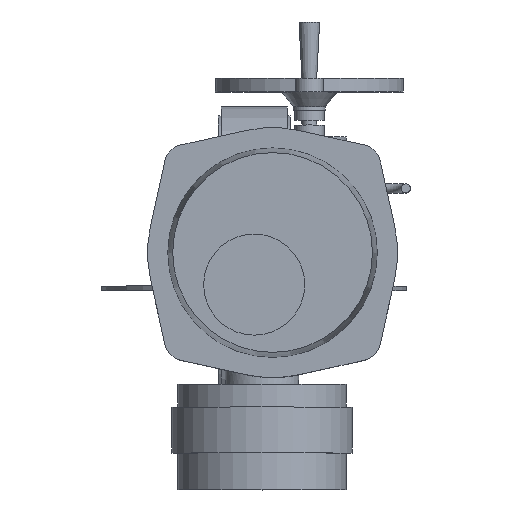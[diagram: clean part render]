
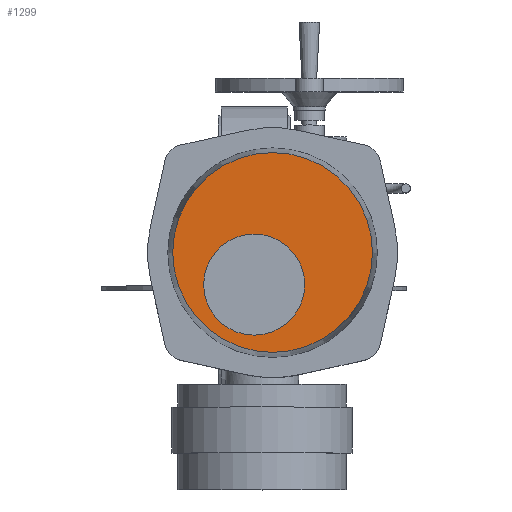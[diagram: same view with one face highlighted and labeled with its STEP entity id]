
A CAD part, top view. The second image highlights one B-rep face of the part: STEP entity #1299.
In plain terms, the highlighted planar face has unit normal (0, 0, 1).
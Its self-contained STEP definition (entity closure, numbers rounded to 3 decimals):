
#1299=ADVANCED_FACE('',(#2807,#2809),#2811,.T.);
#2807=FACE_BOUND('',#2808,.T.);
#2808=EDGE_LOOP('',(#3749));
#2809=FACE_BOUND('',#2810,.T.);
#2810=EDGE_LOOP('',(#3750));
#2811=PLANE('',#2812);
#2812=AXIS2_PLACEMENT_3D('',#2813,#2814,#2815);
#2813=CARTESIAN_POINT('',(20.,38.,659.));
#2814=DIRECTION('',(0.,0.,1.));
#2815=DIRECTION('',(-1.,0.,0.));
#3749=ORIENTED_EDGE('',*,*,#4199,.T.);
#3750=ORIENTED_EDGE('',*,*,#4210,.F.);
#4199=EDGE_CURVE('',#4789,#4789,#4790,.T.);
#4210=EDGE_CURVE('',#4811,#4811,#4812,.T.);
#4789=VERTEX_POINT('',#7947);
#4790=CIRCLE('',#7948,108.707);
#4811=VERTEX_POINT('',#8094);
#4812=CIRCLE('',#8095,55.);
#7947=CARTESIAN_POINT('',(-88.707,38.,659.));
#7948=AXIS2_PLACEMENT_3D('',#7949,#7950,#7951);
#7949=CARTESIAN_POINT('',(20.,38.,659.));
#7950=DIRECTION('',(0.,0.,1.));
#7951=DIRECTION('',(-1.,0.,0.));
#8094=CARTESIAN_POINT('',(-55.,3.,659.));
#8095=AXIS2_PLACEMENT_3D('',#8096,#8097,#8098);
#8096=CARTESIAN_POINT('',(0.,3.,659.));
#8097=DIRECTION('',(0.,0.,1.));
#8098=DIRECTION('',(-1.,0.,0.));
